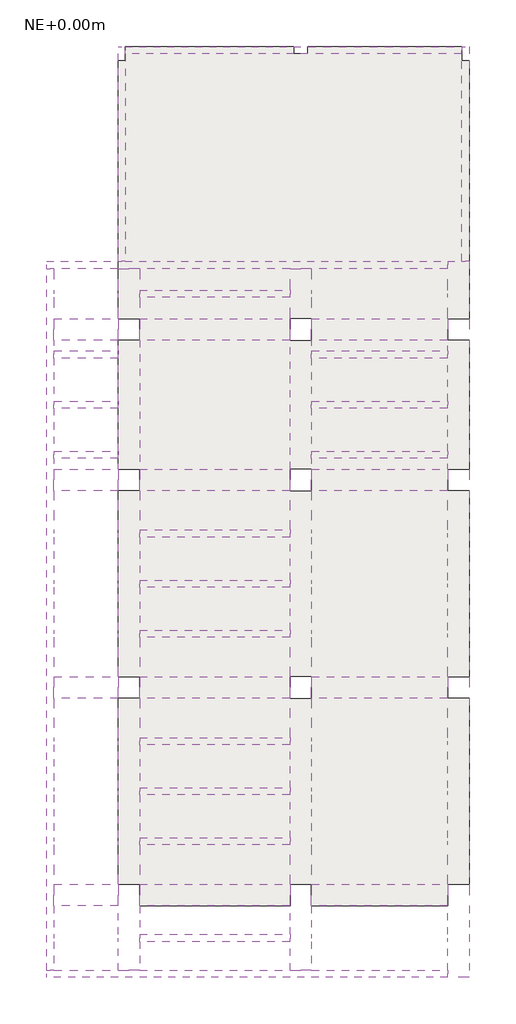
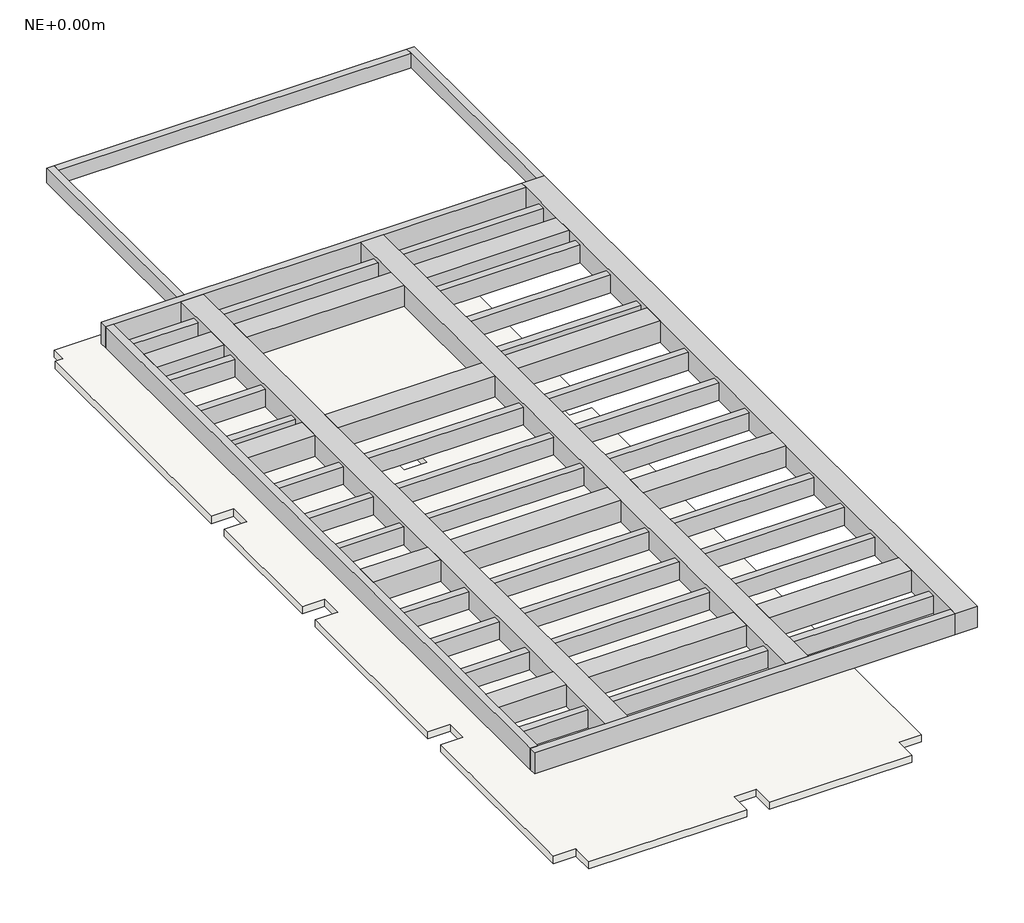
# One storey: 35 beams, 1 slab.
"""IFC4 building model written with IfcOpenShell, lengths in millimetres."""

import ifcopenshell
import ifcopenshell.guid

model = None  # the IFC model being written
_history = None  # IfcOwnerHistory: only IFC2X3 demands one
_inside = {}  # id of a spatial element -> (the spatial element, [elements in it])
_under = {}  # id of a project, library or spatial element -> (it, [spatial elements below it])
_declared = {}  # id of a project -> (the project, [libraries it declares])
_typed = {}  # id of a type object -> (the type object, [elements of that type])
_made_of = {}  # id of a material, layer set ... -> (it, [elements and type objects made of it])


def new_model(schema):
    """Start an empty IFC model of exactly this schema.

    Asked for "IFC4X3", IfcOpenShell would pick the latest addendum, in which some entities
    have other attributes; the version numbers below select the first issue.
    IFC2X3 requires an IfcOwnerHistory on every rooted entity: one is made here for all.
    """
    global model, _history
    if schema == "IFC4X3":
        model = ifcopenshell.file(schema_version=(4, 3, 0, 0))
    else:
        model = ifcopenshell.file(schema=schema)
    _inside.clear()
    _under.clear()
    _declared.clear()
    _typed.clear()
    _made_of.clear()
    _history = None
    if model.schema == "IFC2X3":
        org = make("IfcOrganization", Name="unknown")
        user = make(
            "IfcPersonAndOrganization",
            ThePerson=make("IfcPerson", FamilyName="unknown"),
            TheOrganization=org,
        )
        app = make(
            "IfcApplication",
            ApplicationDeveloper=org,
            Version="unknown",
            ApplicationFullName="unknown",
            ApplicationIdentifier="unknown",
        )
        _history = make(
            "IfcOwnerHistory",
            OwningUser=user,
            OwningApplication=app,
            ChangeAction="ADDED",
            CreationDate=0,
        )
    return model


def make(cls, **values):
    """One entity of the class cls with the attributes given. An attribute that is None is left unset."""
    return model.create_entity(
        cls, **{name: value for name, value in values.items() if value is not None}
    )


def rooted(cls, **values):
    """An entity with a GlobalId (a new one), such as an element, a storey or a relation."""
    return make(cls, GlobalId=ifcopenshell.guid.new(), OwnerHistory=_history, **values)


def si_unit(unit_type, name, prefix=None):
    """IfcSIUnit, for example si_unit("LENGTHUNIT", "METRE", prefix="MILLI")."""
    return make("IfcSIUnit", UnitType=unit_type, Prefix=prefix, Name=name)


def assignment(units):
    """IfcUnitAssignment: the units of a project."""
    return None if units is None else make("IfcUnitAssignment", Units=units)


def point(xyz):
    """IfcCartesianPoint."""
    return None if xyz is None else make("IfcCartesianPoint", Coordinates=xyz)


def direction(xyz):
    """IfcDirection."""
    return None if xyz is None else make("IfcDirection", DirectionRatios=xyz)


def frame(location, z_axis=None, x_axis=None):
    """IfcAxis2Placement3D, a coordinate frame: its origin and axes. An axis left out is left unset."""
    return make(
        "IfcAxis2Placement3D",
        Location=point(location),
        Axis=direction(z_axis),
        RefDirection=direction(x_axis),
    )


def origin():
    """The frame at (0, 0, 0) with its axes left unset."""
    return frame((0.0, 0.0, 0.0))


def place(relative_to, where):
    """IfcLocalPlacement: puts the frame where relative to a parent placement (None: the world)."""
    return make(
        "IfcLocalPlacement", PlacementRelTo=relative_to, RelativePlacement=where
    )


def context(
    kind, dimensions, precision=None, world=None, true_north=None, identifier=None
):
    """IfcGeometricRepresentationContext, for example the 3D "Model" context."""
    return make(
        "IfcGeometricRepresentationContext",
        ContextIdentifier=identifier,
        ContextType=kind,
        CoordinateSpaceDimension=dimensions,
        Precision=precision,
        WorldCoordinateSystem=world,
        TrueNorth=true_north,
    )


def project(units=None, contexts=None):
    """IfcProject with its units and contexts."""
    return rooted(
        "IfcProject",
        Name="project",
        RepresentationContexts=contexts,
        UnitsInContext=assignment(units),
    )


def spatial(cls, under=None, at=None, **own):
    """A site, building, storey or space (cls), placed at a placement, below another one or the project."""
    s = rooted(cls, ObjectPlacement=at, **own)
    if under is not None:
        _under.setdefault(under.id(), (under, []))[1].append(s)
    return s


def polyline(points):
    """IfcPolyline through the points."""
    return make("IfcPolyline", Points=[point(p) for p in points])


def outline(outer, holes=None, kind="AREA"):
    """IfcArbitraryClosedProfileDef: a profile drawn as a closed curve; with holes, ...WithVoids."""
    if holes is None:
        return make("IfcArbitraryClosedProfileDef", ProfileType=kind, OuterCurve=outer)
    return make(
        "IfcArbitraryProfileDefWithVoids",
        ProfileType=kind,
        OuterCurve=outer,
        InnerCurves=holes,
    )


def extrude(swept, where, along, depth):
    """IfcExtrudedAreaSolid: the profile swept, set in the frame where, extruded along a direction by depth."""
    return make(
        "IfcExtrudedAreaSolid",
        SweptArea=swept,
        Position=where,
        ExtrudedDirection=direction(along),
        Depth=depth,
    )


def faces_of(points, faces, orient=None, outer=None):
    """IfcFace entities. A face is a list of loops; a loop is a list of indices into points, from 0.

    orient and outer hold one flag for each loop. By default every Orientation is true, the
    first loop of a face is its IfcFaceOuterBound and the others are IfcFaceBound.
    """
    made = []
    for i, loops in enumerate(faces):
        bounds = []
        for j, loop in enumerate(loops):
            is_outer = j == 0 if outer is None else outer[i][j]
            bounds.append(
                make(
                    "IfcFaceOuterBound" if is_outer else "IfcFaceBound",
                    Bound=make("IfcPolyLoop", Polygon=[points[k] for k in loop]),
                    Orientation=True if orient is None else orient[i][j],
                )
            )
        made.append(make("IfcFace", Bounds=bounds))
    return made


def faceted_brep(points, faces, orient=None, outer=None, voids=None):
    """IfcFacetedBrep: a solid bounded by flat faces; with voids (closed shells), ...WithVoids."""
    shared = [point(p) for p in points]
    hull = make("IfcClosedShell", CfsFaces=faces_of(shared, faces, orient, outer))
    if voids is None:
        return make("IfcFacetedBrep", Outer=hull)
    return make(
        "IfcFacetedBrepWithVoids",
        Outer=hull,
        Voids=[
            make(cls, CfsFaces=faces_of(shared, fs, o, b)) for cls, fs, o, b in voids
        ],
    )


def shape(context_of_items, identifier, shape_type, items):
    """IfcShapeRepresentation: the items that make up one representation, for example the "Body"."""
    return make(
        "IfcShapeRepresentation",
        ContextOfItems=context_of_items,
        RepresentationIdentifier=identifier,
        RepresentationType=shape_type,
        Items=items,
    )


def made_of(thing, what):
    """Note that an element or type object is made of a material, layer set ...; save() writes the relation."""
    if what is not None:
        _made_of.setdefault(what.id(), (what, []))[1].append(thing)
    return thing


def element(
    cls,
    number,
    at=None,
    inside=None,
    cuts=None,
    type_object=None,
    material=None,
    context=None,
    identifier="Body",
    shape_type=None,
    held_by="IfcProductDefinitionShape",
    body=None,
    shapes=None,
    **own,
):
    """One element of the class cls, such as IfcWall. Its Tag is "e" and its number.

    at: its placement. inside: the storey or other place that contains it. cuts: it is an
    opening in that element (IfcRelVoidsElement). A single representation is given by context,
    identifier, shape_type and body (its items); several are given by shapes. held_by: the class
    of the entity that holds the representations. save() writes the other relations.
    """
    e = rooted(cls, Tag="e%d" % number, ObjectPlacement=at, **own)
    if body is not None:
        shapes = [shape(context, identifier, shape_type, body)]
    if shapes is not None:
        e.Representation = make(held_by, Representations=shapes)
    if inside is not None:
        _inside.setdefault(inside.id(), (inside, []))[1].append(e)
    if cuts is not None:
        rooted(
            "IfcRelVoidsElement", RelatingBuildingElement=cuts, RelatedOpeningElement=e
        )
    if type_object is not None:
        _typed.setdefault(type_object.id(), (type_object, []))[1].append(e)
    return made_of(e, material)


def aggregate(whole, parts):
    """IfcRelAggregates: a whole, such as a stair, and the parts it consists of."""
    return rooted("IfcRelAggregates", RelatingObject=whole, RelatedObjects=parts)


def save(model, path):
    """Write the relations noted so far, then the file.

    IfcRelAggregates (storeys below a building ...), IfcRelContainedInSpatialStructure (elements
    in a storey), IfcRelDefinesByType, IfcRelAssociatesMaterial and IfcRelDeclares: one each for
    every whole, place, type object, material and project.
    """
    for whole, parts in _under.values():
        aggregate(whole, parts)
    for where, things in _inside.values():
        rooted(
            "IfcRelContainedInSpatialStructure",
            RelatedElements=things,
            RelatingStructure=where,
        )
    for kind, things in _typed.values():
        rooted("IfcRelDefinesByType", RelatedObjects=things, RelatingType=kind)
    for what, things in _made_of.values():
        rooted("IfcRelAssociatesMaterial", RelatedObjects=things, RelatingMaterial=what)
    for by, libraries in _declared.values():
        rooted("IfcRelDeclares", RelatingContext=by, RelatedDefinitions=libraries)
    model.write(path)


model = new_model("IFC4")

# Units and contexts
model_context = context("Model", 3, world=origin())
ifc_project = project(units=[si_unit("LENGTHUNIT", "METRE", prefix="MILLI")], contexts=[model_context])

# Site, building, storey
site = spatial("IfcSite", under=ifc_project)
building = spatial("IfcBuilding", under=site)
storey = spatial("IfcBuildingStorey", under=building, Name="NE+0.00m", Elevation=0.0)

# Beams
placement = place(None, origin())
element("IfcBeam", 1, ObjectType="Hormigón-Viga rectangular : VConf (0.10x0.20m)", at=placement, inside=storey, context=model_context, shape_type="Brep", body=[
    faceted_brep([(-947.6811082, 4862.8132138, 2600.0), (-1047.6811082, 4862.8132138, 2600.0), (-1047.6811082, 1862.8132138, 2600.0), (-947.6811082, 1862.8132138, 2600.0), (-947.6811082, 4762.8132138, 2600.0), (-1047.6811082, 4862.8132138, 2400.0), (-1047.6811082, 1862.8132138, 2400.0), (-947.6811082, 4862.8132138, 2400.0), (-947.6811082, 4762.8132138, 2400.0), (-947.6811082, 1862.8132138, 2400.0)], [[[0, 1, 2, 3, 4]], [[1, 5, 6, 2]], [[5, 7, 8, 9, 6]], [[7, 0, 4, 3, 9, 8]], [[3, 2, 6, 9]], [[1, 0, 7, 5]]]),
])
element("IfcBeam", 2, ObjectType="Hormigón-Viga rectangular : VConf (0.10x0.20m)", at=placement, inside=storey, context=model_context, shape_type="Brep", body=[
    faceted_brep([(3852.3188918, 4862.8132138, 2600.0), (3752.3188918, 4862.8132138, 2600.0), (3752.3188918, 4762.8132138, 2600.0), (3752.3188918, 1862.8132138, 2600.0), (3852.3188918, 1862.8132138, 2600.0), (3752.3188918, 4862.8132138, 2400.0), (3752.3188918, 4762.8132138, 2400.0), (3752.3188918, 1862.8132138, 2400.0), (3852.3188918, 4862.8132138, 2400.0), (3852.3188918, 1862.8132138, 2400.0)], [[[0, 1, 2, 3, 4]], [[1, 5, 6, 7, 3, 2]], [[5, 8, 9, 7, 6]], [[8, 0, 4, 9]], [[4, 3, 7, 9]], [[1, 0, 8, 5]]]),
])
element("IfcBeam", 3, ObjectType="Hormigón-Viga rectangular : VConf (0.10x0.20m)", at=placement, inside=storey, context=model_context, shape_type="Brep", body=[
    faceted_brep([(-947.6811082, 4862.8132138, 2600.0), (-947.6811082, 4762.8132138, 2600.0), (3752.3188918, 4762.8132138, 2600.0), (3752.3188918, 4862.8132138, 2600.0), (-947.6811082, 4862.8132138, 2400.0), (3752.3188918, 4862.8132138, 2400.0), (1602.3188918, 4862.8132138, 2400.0), (1402.3188918, 4862.8132138, 2400.0), (-947.6811082, 4762.8132138, 2400.0), (3752.3188918, 4762.8132138, 2400.0), (1602.3188918, 4762.8132138, 2400.0), (1402.3188918, 4762.8132138, 2400.0)], [[[0, 1, 2, 3]], [[4, 0, 3, 5, 6, 7]], [[8, 4, 7, 6, 5, 9, 10, 11]], [[1, 8, 11, 10, 9, 2]], [[1, 0, 4, 8]], [[3, 2, 9, 5]]]),
])
element("IfcBeam", 4, ObjectType="Hormigón-Viga rectangular : VA (0.30x0.30m)", at=placement, inside=storey, context=model_context, shape_type="Brep", body=[
    faceted_brep([(3552.3188918, -7137.1867862, 2600.0), (3552.3188918, -6837.1867862, 2600.0), (1652.3188918, -6837.1867862, 2600.0), (1652.3188918, -7137.1867862, 2600.0), (3552.3188918, -6837.1867862, 2550.0), (3552.3188918, -6837.1867862, 2300.0), (1652.3188918, -6837.1867862, 2300.0), (1652.3188918, -6837.1867862, 2550.0), (3552.3188918, -7137.1867862, 2300.0), (1652.3188918, -7137.1867862, 2300.0), (1652.3188918, -7137.1867862, 2550.0), (3552.3188918, -7137.1867862, 2550.0)], [[[0, 1, 2, 3]], [[2, 1, 4, 5, 6, 7]], [[5, 8, 9, 6]], [[0, 3, 10, 9, 8, 11]], [[1, 0, 11, 8, 5, 4]], [[3, 2, 7, 6, 9, 10]]]),
])
element("IfcBeam", 5, ObjectType="Hormigón-Viga rectangular : VA (0.30x0.30m)", at=placement, inside=storey, context=model_context, shape_type="Brep", body=[
    faceted_brep([(1352.3188918, -7137.1867862, 2600.0), (1352.3188918, -6837.1867862, 2600.0), (-747.6811082, -6837.1867862, 2600.0), (-747.6811082, -7137.1867862, 2600.0), (1352.3188918, -6837.1867862, 2550.0), (1352.3188918, -6837.1867862, 2300.0), (-747.6811082, -6837.1867862, 2300.0), (-747.6811082, -6837.1867862, 2550.0), (1352.3188918, -7137.1867862, 2300.0), (-747.6811082, -7137.1867862, 2300.0), (-747.6811082, -7137.1867862, 2550.0), (1352.3188918, -7137.1867862, 2550.0)], [[[0, 1, 2, 3]], [[2, 1, 4, 5, 6, 7]], [[5, 8, 9, 6]], [[0, 3, 10, 9, 8, 11]], [[1, 0, 11, 8, 5, 4]], [[3, 2, 7, 6, 9, 10]]]),
])
element("IfcBeam", 6, ObjectType="Hormigón-Viga rectangular : VA (0.30x0.30m)", at=placement, inside=storey, context=model_context, shape_type="Brep", body=[
    faceted_brep([(-1047.6811082, -7137.1867862, 2600.0), (-1047.6811082, -6837.1867862, 2600.0), (-1947.6811082, -6837.1867862, 2600.0), (-1947.6811082, -7137.1867862, 2600.0), (-1047.6811082, -6837.1867862, 2550.0), (-1047.6811082, -6837.1867862, 2300.0), (-1947.6811082, -6837.1867862, 2300.0), (-1947.6811082, -6837.1867862, 2550.0), (-1047.6811082, -7137.1867862, 2300.0), (-1947.6811082, -7137.1867862, 2300.0), (-1947.6811082, -7137.1867862, 2550.0), (-1047.6811082, -7137.1867862, 2550.0)], [[[0, 1, 2, 3]], [[2, 1, 4, 5, 6, 7]], [[5, 8, 9, 6]], [[0, 3, 10, 9, 8, 11]], [[1, 0, 11, 8, 5, 4]], [[3, 2, 7, 6, 9, 10]]]),
])
element("IfcBeam", 7, ObjectType="Hormigón-Viga rectangular : VA (0.30x0.30m)", at=placement, inside=storey, context=model_context, shape_type="Brep", body=[
    faceted_brep([(3552.3188918, -4237.1867862, 2600.0), (3552.3188918, -3937.1867862, 2600.0), (1652.3188918, -3937.1867862, 2600.0), (1652.3188918, -4237.1867862, 2600.0), (3552.3188918, -3937.1867862, 2550.0), (3552.3188918, -3937.1867862, 2300.0), (1652.3188918, -3937.1867862, 2300.0), (1652.3188918, -3937.1867862, 2550.0), (3552.3188918, -4237.1867862, 2300.0), (1652.3188918, -4237.1867862, 2300.0), (1652.3188918, -4237.1867862, 2550.0), (3552.3188918, -4237.1867862, 2550.0)], [[[0, 1, 2, 3]], [[2, 1, 4, 5, 6, 7]], [[5, 8, 9, 6]], [[0, 3, 10, 9, 8, 11]], [[1, 0, 11, 8, 5, 4]], [[3, 2, 7, 6, 9, 10]]]),
])
element("IfcBeam", 8, ObjectType="Hormigón-Viga rectangular : VA (0.30x0.30m)", at=placement, inside=storey, context=model_context, shape_type="Brep", body=[
    faceted_brep([(1352.3188918, -4237.1867862, 2600.0), (1352.3188918, -3937.1867862, 2600.0), (-747.6811082, -3937.1867862, 2600.0), (-747.6811082, -4237.1867862, 2600.0), (1352.3188918, -3937.1867862, 2550.0), (1352.3188918, -3937.1867862, 2300.0), (-747.6811082, -3937.1867862, 2300.0), (-747.6811082, -3937.1867862, 2550.0), (1352.3188918, -4237.1867862, 2300.0), (-747.6811082, -4237.1867862, 2300.0), (-747.6811082, -4237.1867862, 2550.0), (1352.3188918, -4237.1867862, 2550.0)], [[[0, 1, 2, 3]], [[2, 1, 4, 5, 6, 7]], [[5, 8, 9, 6]], [[0, 3, 10, 9, 8, 11]], [[1, 0, 11, 8, 5, 4]], [[3, 2, 7, 6, 9, 10]]]),
])
element("IfcBeam", 9, ObjectType="Hormigón-Viga rectangular : VA (0.30x0.30m)", at=placement, inside=storey, context=model_context, shape_type="Brep", body=[
    faceted_brep([(-1047.6811082, -4237.1867862, 2600.0), (-1047.6811082, -3937.1867862, 2600.0), (-1947.6811082, -3937.1867862, 2600.0), (-1947.6811082, -4237.1867862, 2600.0), (-1047.6811082, -3937.1867862, 2550.0), (-1047.6811082, -3937.1867862, 2300.0), (-1947.6811082, -3937.1867862, 2300.0), (-1947.6811082, -3937.1867862, 2550.0), (-1047.6811082, -4237.1867862, 2300.0), (-1947.6811082, -4237.1867862, 2300.0), (-1947.6811082, -4237.1867862, 2550.0), (-1047.6811082, -4237.1867862, 2550.0)], [[[0, 1, 2, 3]], [[2, 1, 4, 5, 6, 7]], [[5, 8, 9, 6]], [[0, 3, 10, 9, 8, 11]], [[1, 0, 11, 8, 5, 4]], [[3, 2, 7, 6, 9, 10]]]),
])
element("IfcBeam", 10, ObjectType="Hormigón-Viga rectangular : VA (0.30x0.30m)", at=placement, inside=storey, context=model_context, shape_type="Brep", body=[
    faceted_brep([(3552.3188918, -1337.1867862, 2600.0), (3552.3188918, -1037.1867862, 2600.0), (1652.3188918, -1037.1867862, 2600.0), (1652.3188918, -1337.1867862, 2600.0), (3552.3188918, -1037.1867862, 2550.0), (3552.3188918, -1037.1867862, 2300.0), (1652.3188918, -1037.1867862, 2300.0), (1652.3188918, -1037.1867862, 2550.0), (3552.3188918, -1337.1867862, 2300.0), (1652.3188918, -1337.1867862, 2300.0), (1652.3188918, -1337.1867862, 2550.0), (3552.3188918, -1337.1867862, 2550.0)], [[[0, 1, 2, 3]], [[2, 1, 4, 5, 6, 7]], [[5, 8, 9, 6]], [[0, 3, 10, 9, 8, 11]], [[1, 0, 11, 8, 5, 4]], [[3, 2, 7, 6, 9, 10]]]),
])
element("IfcBeam", 11, ObjectType="Hormigón-Viga rectangular : VA (0.30x0.30m)", at=placement, inside=storey, context=model_context, shape_type="Brep", body=[
    faceted_brep([(1352.3188918, -1337.1867862, 2600.0), (1352.3188918, -1037.1867862, 2600.0), (-747.6811082, -1037.1867862, 2600.0), (-747.6811082, -1337.1867862, 2600.0), (1352.3188918, -1037.1867862, 2300.0), (-747.6811082, -1037.1867862, 2300.0), (1352.3188918, -1337.1867862, 2300.0), (-747.6811082, -1337.1867862, 2300.0), (-747.6811082, -1337.1867862, 2550.0), (1352.3188918, -1337.1867862, 2550.0)], [[[0, 1, 2, 3]], [[1, 4, 5, 2]], [[4, 6, 7, 5]], [[0, 3, 8, 7, 6, 9]], [[1, 0, 9, 6, 4]], [[3, 2, 5, 7, 8]]]),
])
element("IfcBeam", 12, ObjectType="Hormigón-Viga rectangular : VA (0.30x0.30m)", at=placement, inside=storey, context=model_context, shape_type="Brep", body=[
    faceted_brep([(-1047.6811082, -1337.1867862, 2600.0), (-1047.6811082, -1037.1867862, 2600.0), (-1947.6811082, -1037.1867862, 2600.0), (-1947.6811082, -1337.1867862, 2600.0), (-1047.6811082, -1037.1867862, 2550.0), (-1047.6811082, -1037.1867862, 2300.0), (-1947.6811082, -1037.1867862, 2300.0), (-1947.6811082, -1037.1867862, 2550.0), (-1047.6811082, -1337.1867862, 2300.0), (-1947.6811082, -1337.1867862, 2300.0), (-1947.6811082, -1337.1867862, 2550.0), (-1047.6811082, -1337.1867862, 2550.0)], [[[0, 1, 2, 3]], [[2, 1, 4, 5, 6, 7]], [[5, 8, 9, 6]], [[0, 3, 10, 9, 8, 11]], [[1, 0, 11, 8, 5, 4]], [[3, 2, 7, 6, 9, 10]]]),
])
element("IfcBeam", 13, ObjectType="Hormigón-Viga rectangular : VA (0.30x0.30m)", at=placement, inside=storey, context=model_context, shape_type="Brep", body=[
    faceted_brep([(3552.3188918, 762.8132138, 2600.0), (3552.3188918, 1062.8132138, 2600.0), (1652.3188918, 1062.8132138, 2600.0), (1652.3188918, 762.8132138, 2600.0), (3552.3188918, 1062.8132138, 2550.0), (3552.3188918, 1062.8132138, 2300.0), (1652.3188918, 1062.8132138, 2300.0), (1652.3188918, 1062.8132138, 2550.0), (3552.3188918, 762.8132138, 2300.0), (1652.3188918, 762.8132138, 2300.0), (1652.3188918, 762.8132138, 2550.0), (3552.3188918, 762.8132138, 2550.0)], [[[0, 1, 2, 3]], [[2, 1, 4, 5, 6, 7]], [[5, 8, 9, 6]], [[0, 3, 10, 9, 8, 11]], [[1, 0, 11, 8, 5, 4]], [[3, 2, 7, 6, 9, 10]]]),
])
element("IfcBeam", 14, ObjectType="Hormigón-Viga rectangular : VA (0.30x0.30m)", at=placement, inside=storey, context=model_context, shape_type="Brep", body=[
    faceted_brep([(1352.3188918, 762.8132138, 2600.0), (1352.3188918, 1062.8132138, 2600.0), (-747.6811082, 1062.8132138, 2600.0), (-747.6811082, 762.8132138, 2600.0), (1352.3188918, 1062.8132138, 2550.0), (1352.3188918, 1062.8132138, 2300.0), (-747.6811082, 1062.8132138, 2300.0), (-747.6811082, 1062.8132138, 2550.0), (1352.3188918, 762.8132138, 2300.0), (-747.6811082, 762.8132138, 2300.0)], [[[0, 1, 2, 3]], [[2, 1, 4, 5, 6, 7]], [[5, 8, 9, 6]], [[8, 0, 3, 9]], [[1, 0, 8, 5, 4]], [[3, 2, 7, 6, 9]]]),
])
element("IfcBeam", 15, ObjectType="Hormigón-Viga rectangular : VA (0.30x0.30m)", at=placement, inside=storey, context=model_context, shape_type="Brep", body=[
    faceted_brep([(-1047.6811082, 762.8132138, 2600.0), (-1047.6811082, 1062.8132138, 2600.0), (-1947.6811082, 1062.8132138, 2600.0), (-1947.6811082, 762.8132138, 2600.0), (-1047.6811082, 1062.8132138, 2550.0), (-1047.6811082, 1062.8132138, 2300.0), (-1947.6811082, 1062.8132138, 2300.0), (-1947.6811082, 1062.8132138, 2550.0), (-1047.6811082, 762.8132138, 2300.0), (-1947.6811082, 762.8132138, 2300.0), (-1947.6811082, 762.8132138, 2550.0), (-1047.6811082, 762.8132138, 2550.0)], [[[0, 1, 2, 3]], [[2, 1, 4, 5, 6, 7]], [[5, 8, 9, 6]], [[0, 3, 10, 9, 8, 11]], [[1, 0, 11, 8, 5, 4]], [[3, 2, 7, 6, 9, 10]]]),
])
element("IfcBeam", 16, ObjectType="Hormigón-Viga rectangular : VA (0.30x0.30m)", at=placement, inside=storey, context=model_context, shape_type="Brep", body=[
    faceted_brep([(3852.3188918, 1862.8132138, 2600.0), (3752.3188918, 1862.8132138, 2600.0), (3552.3188918, 1862.8132138, 2600.0), (3552.3188918, 1762.8132138, 2600.0), (3552.3188918, 1062.8132138, 2600.0), (3552.3188918, 762.8132138, 2600.0), (3552.3188918, -1037.1867862, 2600.0), (3552.3188918, -1337.1867862, 2600.0), (3552.3188918, -3937.1867862, 2600.0), (3552.3188918, -4237.1867862, 2600.0), (3552.3188918, -6837.1867862, 2600.0), (3552.3188918, -7137.1867862, 2600.0), (3552.3188918, -8037.1867862, 2600.0), (3552.3188918, -8137.1867862, 2600.0), (3852.3188918, -8137.1867862, 2600.0), (3852.3188918, -7137.1867862, 2600.0), (3852.3188918, -6837.1867862, 2600.0), (3852.3188918, -4237.1867862, 2600.0), (3852.3188918, -3937.1867862, 2600.0), (3852.3188918, -1337.1867862, 2600.0), (3852.3188918, -1037.1867862, 2600.0), (3852.3188918, 762.8132138, 2600.0), (3852.3188918, 1062.8132138, 2600.0), (3852.3188918, 1862.8132138, 2300.0), (3852.3188918, 1862.8132138, 2400.0), (3852.3188918, -8137.1867862, 2300.0), (3852.3188918, -7137.1867862, 2300.0), (3852.3188918, -6837.1867862, 2300.0), (3852.3188918, -4237.1867862, 2300.0), (3852.3188918, -3937.1867862, 2300.0), (3852.3188918, -1337.1867862, 2300.0), (3852.3188918, -1037.1867862, 2300.0), (3852.3188918, 762.8132138, 2300.0), (3852.3188918, 1062.8132138, 2300.0), (3552.3188918, 1862.8132138, 2300.0), (3552.3188918, -8137.1867862, 2300.0), (3552.3188918, -8037.1867862, 2300.0), (3552.3188918, -7637.1867862, 2300.0), (3552.3188918, -7537.1867862, 2300.0), (3552.3188918, -7137.1867862, 2300.0), (3552.3188918, -6837.1867862, 2300.0), (3552.3188918, -6287.1867862, 2300.0), (3552.3188918, -6187.1867862, 2300.0), (3552.3188918, -5587.1867862, 2300.0), (3552.3188918, -5487.1867862, 2300.0), (3552.3188918, -4887.1867862, 2300.0), (3552.3188918, -4787.1867862, 2300.0), (3552.3188918, -4237.1867862, 2300.0), (3552.3188918, -3937.1867862, 2300.0), (3552.3188918, -3387.1867862, 2300.0), (3552.3188918, -3287.1867862, 2300.0), (3552.3188918, -2687.1867862, 2300.0), (3552.3188918, -2587.1867862, 2300.0), (3552.3188918, -1987.1867862, 2300.0), (3552.3188918, -1887.1867862, 2300.0), (3552.3188918, -1337.1867862, 2300.0), (3552.3188918, -1037.1867862, 2300.0), (3552.3188918, -887.1867862, 2300.0), (3552.3188918, -787.1867862, 2300.0), (3552.3188918, -187.1867862, 2300.0), (3552.3188918, -87.1867862, 2300.0), (3552.3188918, 512.8132138, 2300.0), (3552.3188918, 612.8132138, 2300.0), (3552.3188918, 762.8132138, 2300.0), (3552.3188918, 1062.8132138, 2300.0), (3552.3188918, 1362.8132138, 2300.0), (3552.3188918, 1462.8132138, 2300.0), (3552.3188918, 1762.8132138, 2300.0)], [[[0, 1, 2, 3, 4, 5, 6, 7, 8, 9, 10, 11, 12, 13, 14, 15, 16, 17, 18, 19, 20, 21, 22]], [[23, 24, 0, 22, 21, 20, 19, 18, 17, 16, 15, 14, 25, 26, 27, 28, 29, 30, 31, 32, 33]], [[34, 23, 33, 32, 31, 30, 29, 28, 27, 26, 25, 35, 36, 37, 38, 39, 40, 41, 42, 43, 44, 45, 46, 47, 48, 49, 50, 51, 52, 53, 54, 55, 56, 57, 58, 59, 60, 61, 62, 63, 64, 65, 66, 67]], [[2, 34, 67, 66, 65, 64, 63, 62, 61, 60, 59, 58, 57, 56, 55, 54, 53, 52, 51, 50, 49, 48, 47, 46, 45, 44, 43, 42, 41, 40, 39, 38, 37, 36, 35, 13, 12, 11, 10, 9, 8, 7, 6, 5, 4, 3]], [[2, 1, 0, 24, 23, 34]], [[14, 13, 35, 25]]]),
])
element("IfcBeam", 17, ObjectType="Hormigón-Viga rectangular : VA (0.30x0.30m)", at=placement, inside=storey, context=model_context, shape_type="Brep", body=[
    faceted_brep([(1652.3188918, 1762.8132138, 2600.0), (1352.3188918, 1762.8132138, 2600.0), (1352.3188918, 1062.8132138, 2600.0), (1352.3188918, 762.8132138, 2600.0), (1352.3188918, -1037.1867862, 2600.0), (1352.3188918, -1337.1867862, 2600.0), (1352.3188918, -3937.1867862, 2600.0), (1352.3188918, -4237.1867862, 2600.0), (1352.3188918, -6837.1867862, 2600.0), (1352.3188918, -7137.1867862, 2600.0), (1352.3188918, -8037.1867862, 2600.0), (1652.3188918, -8037.1867862, 2600.0), (1652.3188918, -7137.1867862, 2600.0), (1652.3188918, -6837.1867862, 2600.0), (1652.3188918, -4237.1867862, 2600.0), (1652.3188918, -3937.1867862, 2600.0), (1652.3188918, -1337.1867862, 2600.0), (1652.3188918, -1037.1867862, 2600.0), (1652.3188918, 762.8132138, 2600.0), (1652.3188918, 1062.8132138, 2600.0), (1352.3188918, 1762.8132138, 2300.0), (1352.3188918, 1462.8132138, 2300.0), (1352.3188918, 1362.8132138, 2300.0), (1352.3188918, 1062.8132138, 2300.0), (1352.3188918, 762.8132138, 2300.0), (1352.3188918, -1037.1867862, 2300.0), (1352.3188918, -1337.1867862, 2300.0), (1352.3188918, -1887.1867862, 2300.0), (1352.3188918, -1987.1867862, 2300.0), (1352.3188918, -2587.1867862, 2300.0), (1352.3188918, -2687.1867862, 2300.0), (1352.3188918, -3287.1867862, 2300.0), (1352.3188918, -3387.1867862, 2300.0), (1352.3188918, -3937.1867862, 2300.0), (1352.3188918, -4237.1867862, 2300.0), (1352.3188918, -4787.1867862, 2300.0), (1352.3188918, -4887.1867862, 2300.0), (1352.3188918, -5487.1867862, 2300.0), (1352.3188918, -5587.1867862, 2300.0), (1352.3188918, -6187.1867862, 2300.0), (1352.3188918, -6287.1867862, 2300.0), (1352.3188918, -6837.1867862, 2300.0), (1352.3188918, -7137.1867862, 2300.0), (1352.3188918, -7537.1867862, 2300.0), (1352.3188918, -7637.1867862, 2300.0), (1352.3188918, -8037.1867862, 2300.0), (1352.3188918, -8037.1867862, 2550.0), (1352.3188918, 1762.8132138, 2550.0), (1652.3188918, 1762.8132138, 2300.0), (1652.3188918, 1462.8132138, 2300.0), (1652.3188918, 1362.8132138, 2300.0), (1652.3188918, 1062.8132138, 2300.0), (1652.3188918, 762.8132138, 2300.0), (1652.3188918, 612.8132138, 2300.0), (1652.3188918, 512.8132138, 2300.0), (1652.3188918, -87.1867862, 2300.0), (1652.3188918, -187.1867862, 2300.0), (1652.3188918, -787.1867862, 2300.0), (1652.3188918, -887.1867862, 2300.0), (1652.3188918, -1037.1867862, 2300.0), (1652.3188918, -1337.1867862, 2300.0), (1652.3188918, -1887.1867862, 2300.0), (1652.3188918, -1987.1867862, 2300.0), (1652.3188918, -2587.1867862, 2300.0), (1652.3188918, -2687.1867862, 2300.0), (1652.3188918, -3287.1867862, 2300.0), (1652.3188918, -3387.1867862, 2300.0), (1652.3188918, -3937.1867862, 2300.0), (1652.3188918, -4237.1867862, 2300.0), (1652.3188918, -4787.1867862, 2300.0), (1652.3188918, -4887.1867862, 2300.0), (1652.3188918, -5487.1867862, 2300.0), (1652.3188918, -5587.1867862, 2300.0), (1652.3188918, -6187.1867862, 2300.0), (1652.3188918, -6287.1867862, 2300.0), (1652.3188918, -6837.1867862, 2300.0), (1652.3188918, -7137.1867862, 2300.0), (1652.3188918, -7537.1867862, 2300.0), (1652.3188918, -7637.1867862, 2300.0), (1652.3188918, -8037.1867862, 2300.0), (1652.3188918, 1762.8132138, 2550.0), (1652.3188918, -8037.1867862, 2550.0)], [[[0, 1, 2, 3, 4, 5, 6, 7, 8, 9, 10, 11, 12, 13, 14, 15, 16, 17, 18, 19]], [[20, 21, 22, 23, 24, 25, 26, 27, 28, 29, 30, 31, 32, 33, 34, 35, 36, 37, 38, 39, 40, 41, 42, 43, 44, 45, 46, 10, 9, 8, 7, 6, 5, 4, 3, 2, 1, 47]], [[20, 48, 49, 50, 51, 52, 53, 54, 55, 56, 57, 58, 59, 60, 61, 62, 63, 64, 65, 66, 67, 68, 69, 70, 71, 72, 73, 74, 75, 76, 77, 78, 79, 45, 44, 43, 42, 41, 40, 39, 38, 37, 36, 35, 34, 33, 32, 31, 30, 29, 28, 27, 26, 25, 24, 23, 22, 21]], [[79, 78, 77, 76, 75, 74, 73, 72, 71, 70, 69, 68, 67, 66, 65, 64, 63, 62, 61, 60, 59, 58, 57, 56, 55, 54, 53, 52, 51, 50, 49, 48, 80, 0, 19, 18, 17, 16, 15, 14, 13, 12, 11, 81]], [[1, 0, 80, 48, 20, 47]], [[11, 10, 46, 45, 79, 81]]]),
])
element("IfcBeam", 18, ObjectType="Hormigón-Viga rectangular : VA (0.30x0.30m)", at=placement, inside=storey, context=model_context, shape_type="Brep", body=[
    faceted_brep([(-747.6811082, 1762.8132138, 2600.0), (-1047.6811082, 1762.8132138, 2600.0), (-1047.6811082, 1062.8132138, 2600.0), (-1047.6811082, 762.8132138, 2600.0), (-1047.6811082, -1037.1867862, 2600.0), (-1047.6811082, -1337.1867862, 2600.0), (-1047.6811082, -3937.1867862, 2600.0), (-1047.6811082, -4237.1867862, 2600.0), (-1047.6811082, -6837.1867862, 2600.0), (-1047.6811082, -7137.1867862, 2600.0), (-1047.6811082, -8037.1867862, 2600.0), (-747.6811082, -8037.1867862, 2600.0), (-747.6811082, -7137.1867862, 2600.0), (-747.6811082, -6837.1867862, 2600.0), (-747.6811082, -4237.1867862, 2600.0), (-747.6811082, -3937.1867862, 2600.0), (-747.6811082, -1337.1867862, 2600.0), (-747.6811082, -1037.1867862, 2600.0), (-747.6811082, 762.8132138, 2600.0), (-747.6811082, 1062.8132138, 2600.0), (-1047.6811082, 1762.8132138, 2300.0), (-1047.6811082, 1462.8132138, 2300.0), (-1047.6811082, 1362.8132138, 2300.0), (-1047.6811082, 1062.8132138, 2300.0), (-1047.6811082, 762.8132138, 2300.0), (-1047.6811082, 612.8132138, 2300.0), (-1047.6811082, 512.8132138, 2300.0), (-1047.6811082, -87.1867862, 2300.0), (-1047.6811082, -187.1867862, 2300.0), (-1047.6811082, -787.1867862, 2300.0), (-1047.6811082, -887.1867862, 2300.0), (-1047.6811082, -1037.1867862, 2300.0), (-1047.6811082, -1337.1867862, 2300.0), (-1047.6811082, -1887.1867862, 2300.0), (-1047.6811082, -1987.1867862, 2300.0), (-1047.6811082, -2587.1867862, 2300.0), (-1047.6811082, -2687.1867862, 2300.0), (-1047.6811082, -3287.1867862, 2300.0), (-1047.6811082, -3387.1867862, 2300.0), (-1047.6811082, -3937.1867862, 2300.0), (-1047.6811082, -4237.1867862, 2300.0), (-1047.6811082, -4787.1867862, 2300.0), (-1047.6811082, -4887.1867862, 2300.0), (-1047.6811082, -5487.1867862, 2300.0), (-1047.6811082, -5587.1867862, 2300.0), (-1047.6811082, -6187.1867862, 2300.0), (-1047.6811082, -6287.1867862, 2300.0), (-1047.6811082, -6837.1867862, 2300.0), (-1047.6811082, -7137.1867862, 2300.0), (-1047.6811082, -7537.1867862, 2300.0), (-1047.6811082, -7637.1867862, 2300.0), (-1047.6811082, -8037.1867862, 2300.0), (-1047.6811082, -8037.1867862, 2550.0), (-1047.6811082, 1762.8132138, 2550.0), (-747.6811082, 1762.8132138, 2300.0), (-747.6811082, 1462.8132138, 2300.0), (-747.6811082, 1362.8132138, 2300.0), (-747.6811082, 1062.8132138, 2300.0), (-747.6811082, 762.8132138, 2300.0), (-747.6811082, -1037.1867862, 2300.0), (-747.6811082, -1337.1867862, 2300.0), (-747.6811082, -1887.1867862, 2300.0), (-747.6811082, -1987.1867862, 2300.0), (-747.6811082, -2587.1867862, 2300.0), (-747.6811082, -2687.1867862, 2300.0), (-747.6811082, -3287.1867862, 2300.0), (-747.6811082, -3387.1867862, 2300.0), (-747.6811082, -3937.1867862, 2300.0), (-747.6811082, -4237.1867862, 2300.0), (-747.6811082, -4787.1867862, 2300.0), (-747.6811082, -4887.1867862, 2300.0), (-747.6811082, -5487.1867862, 2300.0), (-747.6811082, -5587.1867862, 2300.0), (-747.6811082, -6187.1867862, 2300.0), (-747.6811082, -6287.1867862, 2300.0), (-747.6811082, -6837.1867862, 2300.0), (-747.6811082, -7137.1867862, 2300.0), (-747.6811082, -7537.1867862, 2300.0), (-747.6811082, -7637.1867862, 2300.0), (-747.6811082, -8037.1867862, 2300.0), (-747.6811082, 1762.8132138, 2550.0), (-747.6811082, -8037.1867862, 2550.0)], [[[0, 1, 2, 3, 4, 5, 6, 7, 8, 9, 10, 11, 12, 13, 14, 15, 16, 17, 18, 19]], [[20, 21, 22, 23, 24, 25, 26, 27, 28, 29, 30, 31, 32, 33, 34, 35, 36, 37, 38, 39, 40, 41, 42, 43, 44, 45, 46, 47, 48, 49, 50, 51, 52, 10, 9, 8, 7, 6, 5, 4, 3, 2, 1, 53]], [[20, 54, 55, 56, 57, 58, 59, 60, 61, 62, 63, 64, 65, 66, 67, 68, 69, 70, 71, 72, 73, 74, 75, 76, 77, 78, 79, 51, 50, 49, 48, 47, 46, 45, 44, 43, 42, 41, 40, 39, 38, 37, 36, 35, 34, 33, 32, 31, 30, 29, 28, 27, 26, 25, 24, 23, 22, 21]], [[79, 78, 77, 76, 75, 74, 73, 72, 71, 70, 69, 68, 67, 66, 65, 64, 63, 62, 61, 60, 59, 58, 57, 56, 55, 54, 80, 0, 19, 18, 17, 16, 15, 14, 13, 12, 11, 81]], [[1, 0, 80, 54, 20, 53]], [[11, 10, 52, 51, 79, 81]]]),
])
element("IfcBeam", 19, ObjectType="Hormigón-Viga rectangular : VB (0.10x0.30m)", at=placement, inside=storey, context=model_context, shape_type="Brep", body=[
    faceted_brep([(-2047.6811082, 1862.8132138, 2600.0), (-2047.6811082, 1762.8132138, 2600.0), (-1947.6811082, 1762.8132138, 2600.0), (-1047.6811082, 1762.8132138, 2600.0), (-747.6811082, 1762.8132138, 2600.0), (1352.3188918, 1762.8132138, 2600.0), (1652.3188918, 1762.8132138, 2600.0), (3552.3188918, 1762.8132138, 2600.0), (3552.3188918, 1862.8132138, 2600.0), (-947.6811082, 1862.8132138, 2600.0), (-1047.6811082, 1862.8132138, 2600.0), (-2047.6811082, 1862.8132138, 2300.0), (3552.3188918, 1862.8132138, 2300.0), (-2047.6811082, 1762.8132138, 2300.0), (3552.3188918, 1762.8132138, 2300.0), (1652.3188918, 1762.8132138, 2300.0), (1352.3188918, 1762.8132138, 2300.0), (-747.6811082, 1762.8132138, 2300.0), (-1047.6811082, 1762.8132138, 2300.0), (-1947.6811082, 1762.8132138, 2300.0), (3552.3188918, 1762.8132138, 2550.0)], [[[0, 1, 2, 3, 4, 5, 6, 7, 8, 9, 10]], [[11, 0, 10, 9, 8, 12]], [[13, 11, 12, 14, 15, 16, 17, 18, 19]], [[1, 13, 19, 18, 17, 16, 15, 14, 20, 7, 6, 5, 4, 3, 2]], [[1, 0, 11, 13]], [[8, 7, 20, 14, 12]]]),
])
element("IfcBeam", 20, ObjectType="Hormigón-Viga rectangular : VB (0.10x0.30m)", at=placement, inside=storey, context=model_context, shape_type="Brep", body=[
    faceted_brep([(-2047.6811082, -8037.1867862, 2600.0), (-2047.6811082, -8137.1867862, 2600.0), (3552.3188918, -8137.1867862, 2600.0), (3552.3188918, -8037.1867862, 2600.0), (1652.3188918, -8037.1867862, 2600.0), (1352.3188918, -8037.1867862, 2600.0), (-747.6811082, -8037.1867862, 2600.0), (-1047.6811082, -8037.1867862, 2600.0), (-1947.6811082, -8037.1867862, 2600.0), (-2047.6811082, -8037.1867862, 2300.0), (3552.3188918, -8037.1867862, 2550.0), (3552.3188918, -8037.1867862, 2300.0), (1652.3188918, -8037.1867862, 2300.0), (1352.3188918, -8037.1867862, 2300.0), (-747.6811082, -8037.1867862, 2300.0), (-1047.6811082, -8037.1867862, 2300.0), (-1947.6811082, -8037.1867862, 2300.0), (-2047.6811082, -8137.1867862, 2300.0), (3552.3188918, -8137.1867862, 2300.0)], [[[0, 1, 2, 3, 4, 5, 6, 7, 8]], [[9, 0, 8, 7, 6, 5, 4, 3, 10, 11, 12, 13, 14, 15, 16]], [[17, 9, 16, 15, 14, 13, 12, 11, 18]], [[1, 17, 18, 2]], [[1, 0, 9, 17]], [[3, 2, 18, 11, 10]]]),
])
element("IfcBeam", 21, ObjectType="Hormigón-Viga rectangular : VB (0.10x0.30m)", at=placement, inside=storey, context=model_context, shape_type="Brep", body=[
    faceted_brep([(-1947.6811082, 1762.8132138, 2600.0), (-2047.6811082, 1762.8132138, 2600.0), (-2047.6811082, -8037.1867862, 2600.0), (-1947.6811082, -8037.1867862, 2600.0), (-1947.6811082, -7137.1867862, 2600.0), (-1947.6811082, -6837.1867862, 2600.0), (-1947.6811082, -4237.1867862, 2600.0), (-1947.6811082, -3937.1867862, 2600.0), (-1947.6811082, -1337.1867862, 2600.0), (-1947.6811082, -1037.1867862, 2600.0), (-1947.6811082, 762.8132138, 2600.0), (-1947.6811082, 1062.8132138, 2600.0), (-2047.6811082, 1762.8132138, 2300.0), (-2047.6811082, -8037.1867862, 2300.0), (-1947.6811082, 1762.8132138, 2300.0), (-1947.6811082, 1462.8132138, 2300.0), (-1947.6811082, 1362.8132138, 2300.0), (-1947.6811082, 1062.8132138, 2300.0), (-1947.6811082, 762.8132138, 2300.0), (-1947.6811082, 612.8132138, 2300.0), (-1947.6811082, 512.8132138, 2300.0), (-1947.6811082, -87.1867862, 2300.0), (-1947.6811082, -187.1867862, 2300.0), (-1947.6811082, -787.1867862, 2300.0), (-1947.6811082, -887.1867862, 2300.0), (-1947.6811082, -1037.1867862, 2300.0), (-1947.6811082, -1337.1867862, 2300.0), (-1947.6811082, -1887.1867862, 2300.0), (-1947.6811082, -1987.1867862, 2300.0), (-1947.6811082, -2587.1867862, 2300.0), (-1947.6811082, -2687.1867862, 2300.0), (-1947.6811082, -3287.1867862, 2300.0), (-1947.6811082, -3387.1867862, 2300.0), (-1947.6811082, -3937.1867862, 2300.0), (-1947.6811082, -4237.1867862, 2300.0), (-1947.6811082, -4787.1867862, 2300.0), (-1947.6811082, -4887.1867862, 2300.0), (-1947.6811082, -5487.1867862, 2300.0), (-1947.6811082, -5587.1867862, 2300.0), (-1947.6811082, -6187.1867862, 2300.0), (-1947.6811082, -6287.1867862, 2300.0), (-1947.6811082, -6837.1867862, 2300.0), (-1947.6811082, -7137.1867862, 2300.0), (-1947.6811082, -7537.1867862, 2300.0), (-1947.6811082, -7637.1867862, 2300.0), (-1947.6811082, -8037.1867862, 2300.0), (-1947.6811082, 1762.8132138, 2550.0), (-1947.6811082, -8037.1867862, 2550.0)], [[[0, 1, 2, 3, 4, 5, 6, 7, 8, 9, 10, 11]], [[1, 12, 13, 2]], [[12, 14, 15, 16, 17, 18, 19, 20, 21, 22, 23, 24, 25, 26, 27, 28, 29, 30, 31, 32, 33, 34, 35, 36, 37, 38, 39, 40, 41, 42, 43, 44, 45, 13]], [[14, 46, 0, 11, 10, 9, 8, 7, 6, 5, 4, 3, 47, 45, 44, 43, 42, 41, 40, 39, 38, 37, 36, 35, 34, 33, 32, 31, 30, 29, 28, 27, 26, 25, 24, 23, 22, 21, 20, 19, 18, 17, 16, 15]], [[1, 0, 46, 14, 12]], [[3, 2, 13, 45, 47]]]),
])
element("IfcBeam", 22, ObjectType="Hormigón-Viga rectangular : VT (0.10x0.30m)", at=placement, inside=storey, context=model_context, shape_type="SweptSolid", body=[
    extrude(outline(polyline([(3552.3188918, -7537.1867862), (3552.3188918, -7637.1867862), (1652.3188918, -7637.1867862), (1652.3188918, -7537.1867862), (3552.3188918, -7537.1867862)])), frame((0.0, 0.0, 2300.0), z_axis=(0.0, 0.0, 1.0), x_axis=(1.0, 0.0, 0.0)), (0.0, 0.0, 1.0), 250.0),
    extrude(outline(polyline([(-1947.6811082, -7637.1867862), (-1947.6811082, -7537.1867862), (-1047.6811082, -7537.1867862), (-1047.6811082, -7637.1867862), (-1947.6811082, -7637.1867862)])), frame((0.0, 0.0, 2300.0), z_axis=(0.0, 0.0, 1.0), x_axis=(1.0, 0.0, 0.0)), (0.0, 0.0, 1.0), 250.0),
    extrude(outline(polyline([(1352.3188918, -7537.1867862), (1352.3188918, -7637.1867862), (-747.6811082, -7637.1867862), (-747.6811082, -7537.1867862), (1352.3188918, -7537.1867862)])), frame((0.0, 0.0, 2300.0), z_axis=(0.0, 0.0, 1.0), x_axis=(1.0, 0.0, 0.0)), (0.0, 0.0, 1.0), 250.0),
])
element("IfcBeam", 23, ObjectType="Hormigón-Viga rectangular : VT (0.10x0.30m)", at=placement, inside=storey, context=model_context, shape_type="SweptSolid", body=[
    extrude(outline(polyline([(3552.3188918, -4787.1867862), (3552.3188918, -4887.1867862), (1652.3188918, -4887.1867862), (1652.3188918, -4787.1867862), (3552.3188918, -4787.1867862)])), frame((0.0, 0.0, 2300.0), z_axis=(0.0, 0.0, 1.0), x_axis=(1.0, 0.0, 0.0)), (0.0, 0.0, 1.0), 250.0),
    extrude(outline(polyline([(-1947.6811082, -4887.1867862), (-1947.6811082, -4787.1867862), (-1047.6811082, -4787.1867862), (-1047.6811082, -4887.1867862), (-1947.6811082, -4887.1867862)])), frame((0.0, 0.0, 2300.0), z_axis=(0.0, 0.0, 1.0), x_axis=(1.0, 0.0, 0.0)), (0.0, 0.0, 1.0), 250.0),
    extrude(outline(polyline([(1352.3188918, -4787.1867862), (1352.3188918, -4887.1867862), (-747.6811082, -4887.1867862), (-747.6811082, -4787.1867862), (1352.3188918, -4787.1867862)])), frame((0.0, 0.0, 2300.0), z_axis=(0.0, 0.0, 1.0), x_axis=(1.0, 0.0, 0.0)), (0.0, 0.0, 1.0), 250.0),
])
element("IfcBeam", 24, ObjectType="Hormigón-Viga rectangular : VT (0.10x0.30m)", at=placement, inside=storey, context=model_context, shape_type="SweptSolid", body=[
    extrude(outline(polyline([(3552.3188918, -5487.1867862), (3552.3188918, -5587.1867862), (1652.3188918, -5587.1867862), (1652.3188918, -5487.1867862), (3552.3188918, -5487.1867862)])), frame((0.0, 0.0, 2300.0), z_axis=(0.0, 0.0, 1.0), x_axis=(1.0, 0.0, 0.0)), (0.0, 0.0, 1.0), 250.0),
    extrude(outline(polyline([(-1947.6811082, -5587.1867862), (-1947.6811082, -5487.1867862), (-1047.6811082, -5487.1867862), (-1047.6811082, -5587.1867862), (-1947.6811082, -5587.1867862)])), frame((0.0, 0.0, 2300.0), z_axis=(0.0, 0.0, 1.0), x_axis=(1.0, 0.0, 0.0)), (0.0, 0.0, 1.0), 250.0),
    extrude(outline(polyline([(1352.3188918, -5487.1867862), (1352.3188918, -5587.1867862), (-747.6811082, -5587.1867862), (-747.6811082, -5487.1867862), (1352.3188918, -5487.1867862)])), frame((0.0, 0.0, 2300.0), z_axis=(0.0, 0.0, 1.0), x_axis=(1.0, 0.0, 0.0)), (0.0, 0.0, 1.0), 250.0),
])
element("IfcBeam", 25, ObjectType="Hormigón-Viga rectangular : VT (0.10x0.30m)", at=placement, inside=storey, context=model_context, shape_type="SweptSolid", body=[
    extrude(outline(polyline([(3552.3188918, -6187.1867862), (3552.3188918, -6287.1867862), (1652.3188918, -6287.1867862), (1652.3188918, -6187.1867862), (3552.3188918, -6187.1867862)])), frame((0.0, 0.0, 2300.0), z_axis=(0.0, 0.0, 1.0), x_axis=(1.0, 0.0, 0.0)), (0.0, 0.0, 1.0), 250.0),
    extrude(outline(polyline([(-1947.6811082, -6287.1867862), (-1947.6811082, -6187.1867862), (-1047.6811082, -6187.1867862), (-1047.6811082, -6287.1867862), (-1947.6811082, -6287.1867862)])), frame((0.0, 0.0, 2300.0), z_axis=(0.0, 0.0, 1.0), x_axis=(1.0, 0.0, 0.0)), (0.0, 0.0, 1.0), 250.0),
    extrude(outline(polyline([(1352.3188918, -6187.1867862), (1352.3188918, -6287.1867862), (-747.6811082, -6287.1867862), (-747.6811082, -6187.1867862), (1352.3188918, -6187.1867862)])), frame((0.0, 0.0, 2300.0), z_axis=(0.0, 0.0, 1.0), x_axis=(1.0, 0.0, 0.0)), (0.0, 0.0, 1.0), 250.0),
])
element("IfcBeam", 26, ObjectType="Hormigón-Viga rectangular : VT (0.10x0.30m)", at=placement, inside=storey, context=model_context, shape_type="SweptSolid", body=[
    extrude(outline(polyline([(3552.3188918, -1887.1867862), (3552.3188918, -1987.1867862), (1652.3188918, -1987.1867862), (1652.3188918, -1887.1867862), (3552.3188918, -1887.1867862)])), frame((0.0, 0.0, 2300.0), z_axis=(0.0, 0.0, 1.0), x_axis=(1.0, 0.0, 0.0)), (0.0, 0.0, 1.0), 250.0),
    extrude(outline(polyline([(-1947.6811082, -1987.1867862), (-1947.6811082, -1887.1867862), (-1047.6811082, -1887.1867862), (-1047.6811082, -1987.1867862), (-1947.6811082, -1987.1867862)])), frame((0.0, 0.0, 2300.0), z_axis=(0.0, 0.0, 1.0), x_axis=(1.0, 0.0, 0.0)), (0.0, 0.0, 1.0), 250.0),
    extrude(outline(polyline([(1352.3188918, -1887.1867862), (1352.3188918, -1987.1867862), (-747.6811082, -1987.1867862), (-747.6811082, -1887.1867862), (1352.3188918, -1887.1867862)])), frame((0.0, 0.0, 2300.0), z_axis=(0.0, 0.0, 1.0), x_axis=(1.0, 0.0, 0.0)), (0.0, 0.0, 1.0), 250.0),
])
element("IfcBeam", 27, ObjectType="Hormigón-Viga rectangular : VT (0.10x0.30m)", at=placement, inside=storey, context=model_context, shape_type="SweptSolid", body=[
    extrude(outline(polyline([(3552.3188918, -2587.1867862), (3552.3188918, -2687.1867862), (1652.3188918, -2687.1867862), (1652.3188918, -2587.1867862), (3552.3188918, -2587.1867862)])), frame((0.0, 0.0, 2300.0), z_axis=(0.0, 0.0, 1.0), x_axis=(1.0, 0.0, 0.0)), (0.0, 0.0, 1.0), 250.0),
    extrude(outline(polyline([(-1947.6811082, -2687.1867862), (-1947.6811082, -2587.1867862), (-1047.6811082, -2587.1867862), (-1047.6811082, -2687.1867862), (-1947.6811082, -2687.1867862)])), frame((0.0, 0.0, 2300.0), z_axis=(0.0, 0.0, 1.0), x_axis=(1.0, 0.0, 0.0)), (0.0, 0.0, 1.0), 250.0),
    extrude(outline(polyline([(1352.3188918, -2587.1867862), (1352.3188918, -2687.1867862), (-747.6811082, -2687.1867862), (-747.6811082, -2587.1867862), (1352.3188918, -2587.1867862)])), frame((0.0, 0.0, 2300.0), z_axis=(0.0, 0.0, 1.0), x_axis=(1.0, 0.0, 0.0)), (0.0, 0.0, 1.0), 250.0),
])
element("IfcBeam", 28, ObjectType="Hormigón-Viga rectangular : VT (0.10x0.30m)", at=placement, inside=storey, context=model_context, shape_type="SweptSolid", body=[
    extrude(outline(polyline([(3552.3188918, -3287.1867862), (3552.3188918, -3387.1867862), (1652.3188918, -3387.1867862), (1652.3188918, -3287.1867862), (3552.3188918, -3287.1867862)])), frame((0.0, 0.0, 2300.0), z_axis=(0.0, 0.0, 1.0), x_axis=(1.0, 0.0, 0.0)), (0.0, 0.0, 1.0), 250.0),
    extrude(outline(polyline([(-1947.6811082, -3387.1867862), (-1947.6811082, -3287.1867862), (-1047.6811082, -3287.1867862), (-1047.6811082, -3387.1867862), (-1947.6811082, -3387.1867862)])), frame((0.0, 0.0, 2300.0), z_axis=(0.0, 0.0, 1.0), x_axis=(1.0, 0.0, 0.0)), (0.0, 0.0, 1.0), 250.0),
    extrude(outline(polyline([(1352.3188918, -3287.1867862), (1352.3188918, -3387.1867862), (-747.6811082, -3387.1867862), (-747.6811082, -3287.1867862), (1352.3188918, -3287.1867862)])), frame((0.0, 0.0, 2300.0), z_axis=(0.0, 0.0, 1.0), x_axis=(1.0, 0.0, 0.0)), (0.0, 0.0, 1.0), 250.0),
])
element("IfcBeam", 29, ObjectType="Hormigón-Viga rectangular : VT (0.10x0.30m)", at=placement, inside=storey, context=model_context, shape_type="SweptSolid", body=[
    extrude(outline(polyline([(3552.3188918, 612.8132138), (3552.3188918, 512.8132138), (1652.3188918, 512.8132138), (1652.3188918, 612.8132138), (3552.3188918, 612.8132138)])), frame((0.0, 0.0, 2300.0), z_axis=(0.0, 0.0, 1.0), x_axis=(1.0, 0.0, 0.0)), (0.0, 0.0, 1.0), 250.0),
])
element("IfcBeam", 30, ObjectType="Hormigón-Viga rectangular : VT (0.10x0.30m)", at=placement, inside=storey, context=model_context, shape_type="SweptSolid", body=[
    extrude(outline(polyline([(3552.3188918, -87.1867862), (3552.3188918, -187.1867862), (1652.3188918, -187.1867862), (1652.3188918, -87.1867862), (3552.3188918, -87.1867862)])), frame((0.0, 0.0, 2300.0), z_axis=(0.0, 0.0, 1.0), x_axis=(1.0, 0.0, 0.0)), (0.0, 0.0, 1.0), 250.0),
])
element("IfcBeam", 31, ObjectType="Hormigón-Viga rectangular : VT (0.10x0.30m)", at=placement, inside=storey, context=model_context, shape_type="SweptSolid", body=[
    extrude(outline(polyline([(3552.3188918, -787.1867862), (3552.3188918, -887.1867862), (1652.3188918, -887.1867862), (1652.3188918, -787.1867862), (3552.3188918, -787.1867862)])), frame((0.0, 0.0, 2300.0), z_axis=(0.0, 0.0, 1.0), x_axis=(1.0, 0.0, 0.0)), (0.0, 0.0, 1.0), 250.0),
])
element("IfcBeam", 32, ObjectType="Hormigón-Viga rectangular : VT (0.10x0.30m)", at=placement, inside=storey, context=model_context, shape_type="SweptSolid", body=[
    extrude(outline(polyline([(-1047.6811082, 612.8132138), (-1047.6811082, 512.8132138), (-1947.6811082, 512.8132138), (-1947.6811082, 612.8132138), (-1047.6811082, 612.8132138)])), frame((0.0, 0.0, 2300.0), z_axis=(0.0, 0.0, 1.0), x_axis=(1.0, 0.0, 0.0)), (0.0, 0.0, 1.0), 250.0),
])
element("IfcBeam", 33, ObjectType="Hormigón-Viga rectangular : VT (0.10x0.30m)", at=placement, inside=storey, context=model_context, shape_type="SweptSolid", body=[
    extrude(outline(polyline([(-1047.6811082, -87.1867862), (-1047.6811082, -187.1867862), (-1947.6811082, -187.1867862), (-1947.6811082, -87.1867862), (-1047.6811082, -87.1867862)])), frame((0.0, 0.0, 2300.0), z_axis=(0.0, 0.0, 1.0), x_axis=(1.0, 0.0, 0.0)), (0.0, 0.0, 1.0), 250.0),
])
element("IfcBeam", 34, ObjectType="Hormigón-Viga rectangular : VT (0.10x0.30m)", at=placement, inside=storey, context=model_context, shape_type="SweptSolid", body=[
    extrude(outline(polyline([(-1047.6811082, -787.1867862), (-1047.6811082, -887.1867862), (-1947.6811082, -887.1867862), (-1947.6811082, -787.1867862), (-1047.6811082, -787.1867862)])), frame((0.0, 0.0, 2300.0), z_axis=(0.0, 0.0, 1.0), x_axis=(1.0, 0.0, 0.0)), (0.0, 0.0, 1.0), 250.0),
])
element("IfcBeam", 35, ObjectType="Hormigón-Viga rectangular : VT (0.10x0.30m)", at=placement, inside=storey, context=model_context, shape_type="SweptSolid", body=[
    extrude(outline(polyline([(3552.3188918, 1462.8132138), (3552.3188918, 1362.8132138), (1652.3188918, 1362.8132138), (1652.3188918, 1462.8132138), (3552.3188918, 1462.8132138)])), frame((0.0, 0.0, 2300.0), z_axis=(0.0, 0.0, 1.0), x_axis=(1.0, 0.0, 0.0)), (0.0, 0.0, 1.0), 250.0),
    extrude(outline(polyline([(-1947.6811082, 1362.8132138), (-1947.6811082, 1462.8132138), (-1047.6811082, 1462.8132138), (-1047.6811082, 1362.8132138), (-1947.6811082, 1362.8132138)])), frame((0.0, 0.0, 2300.0), z_axis=(0.0, 0.0, 1.0), x_axis=(1.0, 0.0, 0.0)), (0.0, 0.0, 1.0), 250.0),
    extrude(outline(polyline([(1352.3188918, 1462.8132138), (1352.3188918, 1362.8132138), (-747.6811082, 1362.8132138), (-747.6811082, 1462.8132138), (1352.3188918, 1462.8132138)])), frame((0.0, 0.0, 2300.0), z_axis=(0.0, 0.0, 1.0), x_axis=(1.0, 0.0, 0.0)), (0.0, 0.0, 1.0), 250.0),
])

# Slab
element("IfcSlab", 36, ObjectType="Contrapiso e=10cm", at=placement, inside=storey, context=model_context, shape_type="SweptSolid", body=[
    extrude(outline(polyline([(1402.3188918, 4862.8132138), (1402.3188918, 4762.8132138), (1602.3188918, 4762.8132138), (1602.3188918, 4862.8132138), (3752.3188918, 4862.8132138), (3752.3188918, 4662.8132138), (3852.3188918, 4662.8132138), (3852.3188918, 1062.8132138), (3552.3188918, 1062.8132138), (3552.3188918, 762.8132138), (3852.3188918, 762.8132138), (3852.3188918, -1037.1867862), (3552.3188918, -1037.1867862), (3552.3188918, -1337.1867862), (3852.3188918, -1337.1867862), (3852.3188918, -3937.1867862), (3552.3188918, -3937.1867862), (3552.3188918, -4237.1867862), (3852.3188918, -4237.1867862), (3852.3188918, -6837.1867862), (3552.3188918, -6837.1867862), (3552.3188918, -7137.1867862), (1652.3188918, -7137.1867862), (1652.3188918, -6837.1867862), (1352.3188918, -6837.1867862), (1352.3188918, -7137.1867862), (-747.6811082, -7137.1867862), (-747.6811082, -6837.1867862), (-1047.6811082, -6837.1867862), (-1047.6811082, -4237.1867862), (-747.6811082, -4237.1867862), (-747.6811082, -3937.1867862), (-1047.6811082, -3937.1867862), (-1047.6811082, -1337.1867862), (-747.6811082, -1337.1867862), (-747.6811082, -1037.1867862), (-1047.6811082, -1037.1867862), (-1047.6811082, 762.8132138), (-747.6811082, 762.8132138), (-747.6811082, 1062.8132138), (-1047.6811082, 1062.8132138), (-1047.6811082, 4662.8132138), (-947.6811082, 4662.8132138), (-947.6811082, 4862.8132138), (1402.3188918, 4862.8132138)]), holes=[polyline([(1652.3188918, 1062.8132138), (1352.3188918, 1062.8132138), (1352.3188918, 762.8132138), (1652.3188918, 762.8132138), (1652.3188918, 1062.8132138)]), polyline([(1652.3188918, -1037.1867862), (1352.3188918, -1037.1867862), (1352.3188918, -1337.1867862), (1652.3188918, -1337.1867862), (1652.3188918, -1037.1867862)]), polyline([(1652.3188918, -3937.1867862), (1352.3188918, -3937.1867862), (1352.3188918, -4237.1867862), (1652.3188918, -4237.1867862), (1652.3188918, -3937.1867862)])]), frame((0.0, 0.0, -100.0), z_axis=(0.0, 0.0, 1.0), x_axis=(1.0, 0.0, 0.0)), (0.0, 0.0, 1.0), 100.0),
])

save(model, "model.ifc")
